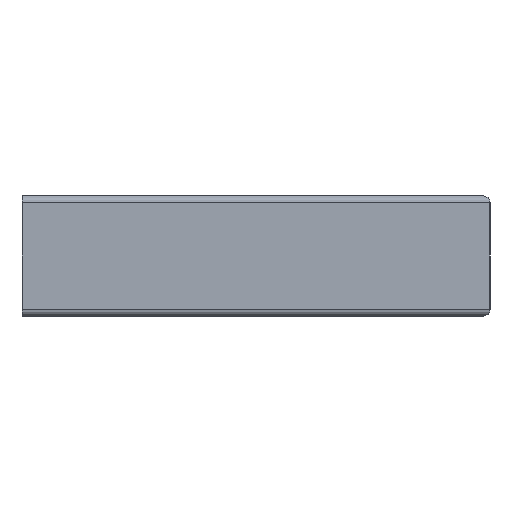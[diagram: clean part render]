
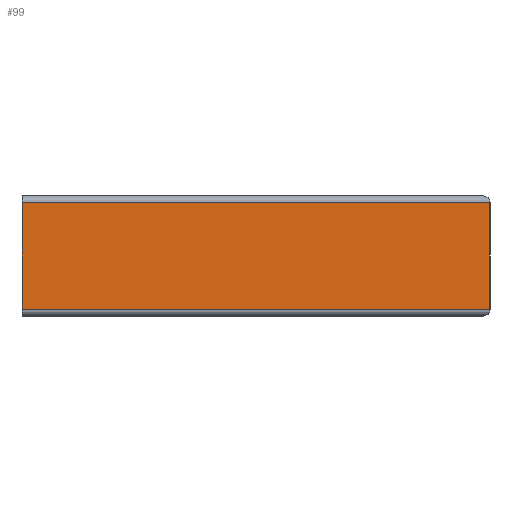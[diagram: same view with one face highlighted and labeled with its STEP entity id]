
A CAD part, left-side view. The second image highlights one B-rep face of the part: STEP entity #99.
In plain terms, the highlighted planar face has unit normal (-1, 0, 0).
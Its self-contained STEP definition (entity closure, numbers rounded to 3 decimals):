
#99 = ADVANCED_FACE( '', ( #151 ), #152, .T. );
#151 = FACE_OUTER_BOUND( '', #205, .T. );
#152 = PLANE( '', #206 );
#205 = EDGE_LOOP( '', ( #392, #393, #394, #395 ) );
#206 = AXIS2_PLACEMENT_3D( '', #396, #397, #398 );
#392 = ORIENTED_EDGE( '', *, *, #470, .F. );
#393 = ORIENTED_EDGE( '', *, *, #473, .F. );
#394 = ORIENTED_EDGE( '', *, *, #471, .T. );
#395 = ORIENTED_EDGE( '', *, *, #433, .F. );
#396 = CARTESIAN_POINT( '', ( -11.999, 0., -4. ) );
#397 = DIRECTION( '', ( -1., 0., 0. ) );
#398 = DIRECTION( '', ( 0., 0., -1. ) );
#433 = EDGE_CURVE( '', #513, #493, #515, .T. );
#470 = EDGE_CURVE( '', #569, #513, #571, .T. );
#471 = EDGE_CURVE( '', #572, #493, #573, .T. );
#473 = EDGE_CURVE( '', #572, #569, #575, .T. );
#493 = VERTEX_POINT( '', #599 );
#513 = VERTEX_POINT( '', #629 );
#515 = LINE( '', #632, #633 );
#569 = VERTEX_POINT( '', #740 );
#571 = LINE( '', #742, #743 );
#572 = VERTEX_POINT( '', #744 );
#573 = LINE( '', #745, #746 );
#575 = LINE( '', #748, #749 );
#599 = CARTESIAN_POINT( '', ( -11.999, -35., -4. ) );
#629 = CARTESIAN_POINT( '', ( -11.999, -35., 4. ) );
#632 = CARTESIAN_POINT( '', ( -11.999, -35., 4.25 ) );
#633 = VECTOR( '', #783, 1. );
#740 = CARTESIAN_POINT( '', ( -11.999, 0., 4. ) );
#742 = CARTESIAN_POINT( '', ( -11.999, 0., 4. ) );
#743 = VECTOR( '', #846, 1. );
#744 = CARTESIAN_POINT( '', ( -11.999, 0., -4. ) );
#745 = CARTESIAN_POINT( '', ( -11.999, 0., -4. ) );
#746 = VECTOR( '', #847, 1. );
#748 = CARTESIAN_POINT( '', ( -11.999, 0., -4. ) );
#749 = VECTOR( '', #851, 1. );
#783 = DIRECTION( '', ( 0., 0., -1. ) );
#846 = DIRECTION( '', ( 0., -1., 0. ) );
#847 = DIRECTION( '', ( 0., -1., 0. ) );
#851 = DIRECTION( '', ( 0., 0., 1. ) );
